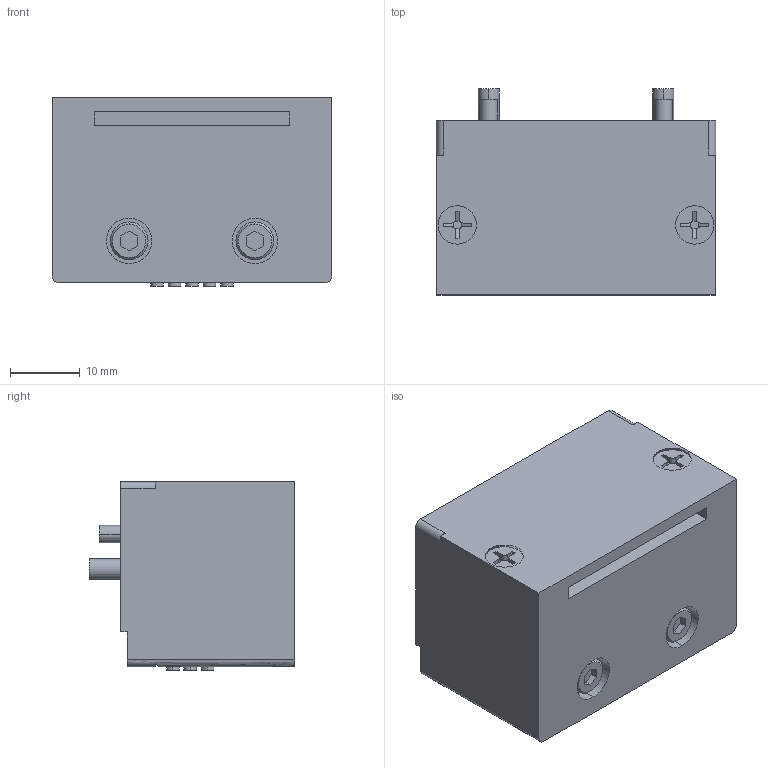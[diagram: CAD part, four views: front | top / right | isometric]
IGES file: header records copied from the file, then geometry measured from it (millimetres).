
Start section: 3D InterOp IGES (v. 2022 1.0.0), Spatial Corp. Copyright (c) 1999-2020.
Global section: file name: KHB-7~25RS-D315_ver1.igs; native system: Spatial Corp.; preprocessor: 3D InterOp GENERIC/IGES 3.0; author: Noname; organization: Noname; date: 20260427.093714; units: millimetre
Bounding box: 40 x 29.5 x 27 mm (x, y, z)
Surface area: 8767.1 mm2 (no closed solid volume)
Topology: 0 solids, 0 shells, 382 faces, 1674 edges, 1674 vertices
Faces by surface type: extrusion 193, revolution 189
